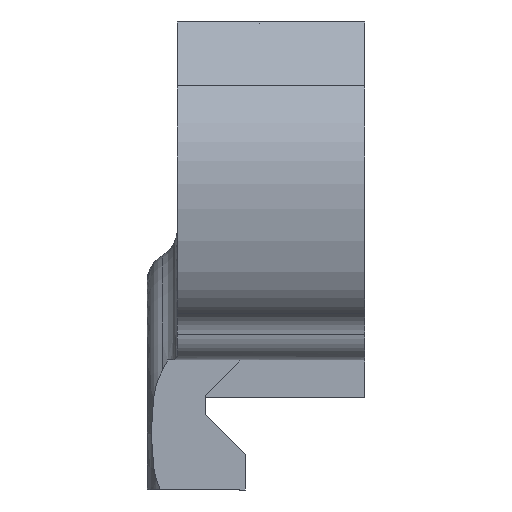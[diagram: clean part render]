
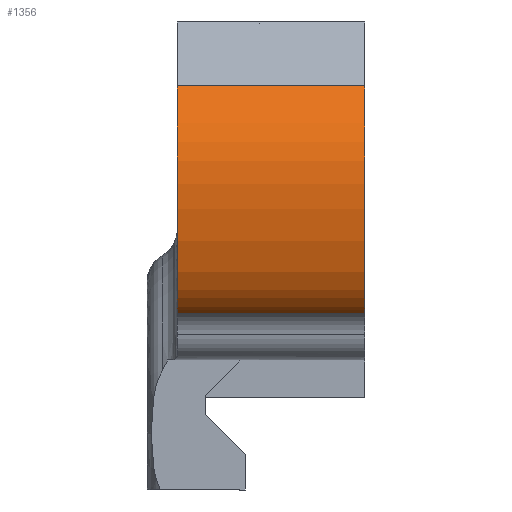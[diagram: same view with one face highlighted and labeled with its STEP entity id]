
A CAD part, left-side view. The second image highlights one B-rep face of the part: STEP entity #1356.
In plain terms, the highlighted free-form (B-spline) face has degree [3, 1] with [11, 2] control points.
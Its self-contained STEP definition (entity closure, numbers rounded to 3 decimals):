
#6 = CARTESIAN_POINT ( 'NONE',  ( 136.265, 12.445, -57.393 ) ) ;
#41 = CARTESIAN_POINT ( 'NONE',  ( 138.091, 0., -70.685 ) ) ;
#103 = ORIENTED_EDGE ( 'NONE', *, *, #2310, .F. ) ;
#126 = CARTESIAN_POINT ( 'NONE',  ( 135.369, 0., -59.25 ) ) ;
#133 = CARTESIAN_POINT ( 'NONE',  ( 135.03, 0., -61.218 ) ) ;
#169 = CARTESIAN_POINT ( 'NONE',  ( 136.694, 0., -69.453 ) ) ;
#190 = VERTEX_POINT ( 'NONE', #1692 ) ;
#204 = CARTESIAN_POINT ( 'NONE',  ( 136.694, 12.445, -69.453 ) ) ;
#216 = CARTESIAN_POINT ( 'NONE',  ( 137.57, 12.445, -70.346 ) ) ;
#257 = VECTOR ( 'NONE', #1516, 1000. ) ;
#276 = EDGE_LOOP ( 'NONE', ( #468, #103, #1373, #1128 ) ) ;
#300 = CARTESIAN_POINT ( 'NONE',  ( 135.845, 0., -67.607 ) ) ;
#318 = CARTESIAN_POINT ( 'NONE',  ( 136.694, 0., -69.453 ) ) ;
#350 = CARTESIAN_POINT ( 'NONE',  ( 135.369, 12.445, -59.25 ) ) ;
#377 = B_SPLINE_CURVE_WITH_KNOTS ( 'NONE', 3,
 ( #587, #808, #6, #1480, #1470, #426, #1880, #619, #204, #216, #1279 ),
 .UNSPECIFIED., .F., .F.,
 ( 4, 1, 1, 1, 1, 1, 1, 1, 4 ),
 ( 0.01, 0.013, 0.015, 0.017, 0.019, 0.022, 0.024, 0.026, 0.028 ),
 .UNSPECIFIED. ) ;
#379 = CARTESIAN_POINT ( 'NONE',  ( 137.087, 0., -56.161 ) ) ;
#426 = CARTESIAN_POINT ( 'NONE',  ( 135.052, 12.445, -63.377 ) ) ;
#451 = VERTEX_POINT ( 'NONE', #489 ) ;
#468 = ORIENTED_EDGE ( 'NONE', *, *, #1285, .F. ) ;
#489 = CARTESIAN_POINT ( 'NONE',  ( 138.091, 12.445, -70.685 ) ) ;
#559 = CARTESIAN_POINT ( 'NONE',  ( 135.052, 0., -63.377 ) ) ;
#587 = CARTESIAN_POINT ( 'NONE',  ( 137.5, 12.445, -55.565 ) ) ;
#589 = CARTESIAN_POINT ( 'NONE',  ( 135.03, 12.445, -61.218 ) ) ;
#619 = CARTESIAN_POINT ( 'NONE',  ( 135.845, 12.445, -67.607 ) ) ;
#760 = VECTOR ( 'NONE', #2339, 1000. ) ;
#769 = CARTESIAN_POINT ( 'NONE',  ( 137.57, 0., -70.346 ) ) ;
#796 = CARTESIAN_POINT ( 'NONE',  ( 135.03, 0., -61.218 ) ) ;
#808 = CARTESIAN_POINT ( 'NONE',  ( 137.087, 12.445, -56.161 ) ) ;
#809 = B_SPLINE_CURVE_WITH_KNOTS ( 'NONE', 3,
 ( #2452, #2628, #1388, #126, #133, #1357, #1152, #300, #318, #1399, #1380 ),
 .UNSPECIFIED., .F., .F.,
 ( 4, 1, 1, 1, 1, 1, 1, 1, 4 ),
 ( 0.01, 0.013, 0.015, 0.017, 0.019, 0.022, 0.024, 0.026, 0.028 ),
 .UNSPECIFIED. ) ;
#811 = CARTESIAN_POINT ( 'NONE',  ( 136.265, 0., -57.393 ) ) ;
#1006 = CARTESIAN_POINT ( 'NONE',  ( 137.5, 12.445, -55.565 ) ) ;
#1032 = CARTESIAN_POINT ( 'NONE',  ( 138.091, 12.445, -70.685 ) ) ;
#1128 = ORIENTED_EDGE ( 'NONE', *, *, #2103, .T. ) ;
#1152 = CARTESIAN_POINT ( 'NONE',  ( 135.339, 0., -65.513 ) ) ;
#1197 = CARTESIAN_POINT ( 'NONE',  ( 135.845, 12.445, -67.607 ) ) ;
#1223 = B_SPLINE_SURFACE_WITH_KNOTS ( 'NONE', 3, 1, ( 
 ( #1006, #2689 ),
 ( #2056, #379 ),
 ( #2724, #811 ),
 ( #350, #1617 ),
 ( #589, #796 ),
 ( #1420, #559 ),
 ( #2041, #2277 ),
 ( #1197, #2282 ),
 ( #2267, #169 ),
 ( #2240, #769 ),
 ( #1426, #2481 ) ),
 .UNSPECIFIED., .F., .F., .F.,
 ( 4, 1, 1, 1, 1, 1, 1, 1, 4 ),
 ( 2, 2 ),
 ( 0.01, 0.013, 0.015, 0.017, 0.019, 0.022, 0.024, 0.026, 0.028 ),
 ( 0., 1. ),
 .UNSPECIFIED. ) ;
#1256 = LINE ( 'NONE', #2131, #257 ) ;
#1279 = CARTESIAN_POINT ( 'NONE',  ( 138.091, 12.445, -70.685 ) ) ;
#1285 = EDGE_CURVE ( 'NONE', #190, #2304, #809, .T. ) ;
#1356 = ADVANCED_FACE ( 'NONE', ( #2363 ), #1223, .T. ) ;
#1357 = CARTESIAN_POINT ( 'NONE',  ( 135.052, 0., -63.377 ) ) ;
#1373 = ORIENTED_EDGE ( 'NONE', *, *, #2678, .T. ) ;
#1380 = CARTESIAN_POINT ( 'NONE',  ( 138.091, 0., -70.685 ) ) ;
#1388 = CARTESIAN_POINT ( 'NONE',  ( 136.265, 0., -57.393 ) ) ;
#1399 = CARTESIAN_POINT ( 'NONE',  ( 137.57, 0., -70.346 ) ) ;
#1420 = CARTESIAN_POINT ( 'NONE',  ( 135.052, 12.445, -63.377 ) ) ;
#1425 = LINE ( 'NONE', #1032, #760 ) ;
#1426 = CARTESIAN_POINT ( 'NONE',  ( 138.091, 12.445, -70.685 ) ) ;
#1470 = CARTESIAN_POINT ( 'NONE',  ( 135.03, 12.445, -61.218 ) ) ;
#1480 = CARTESIAN_POINT ( 'NONE',  ( 135.369, 12.445, -59.25 ) ) ;
#1516 = DIRECTION ( 'NONE',  ( 0., -1., 0. ) ) ;
#1617 = CARTESIAN_POINT ( 'NONE',  ( 135.369, 0., -59.25 ) ) ;
#1692 = CARTESIAN_POINT ( 'NONE',  ( 137.5, 0., -55.565 ) ) ;
#1880 = CARTESIAN_POINT ( 'NONE',  ( 135.339, 12.445, -65.513 ) ) ;
#2041 = CARTESIAN_POINT ( 'NONE',  ( 135.339, 12.445, -65.513 ) ) ;
#2056 = CARTESIAN_POINT ( 'NONE',  ( 137.087, 12.445, -56.161 ) ) ;
#2103 = EDGE_CURVE ( 'NONE', #451, #2304, #1425, .T. ) ;
#2131 = CARTESIAN_POINT ( 'NONE',  ( 137.5, 12.445, -55.565 ) ) ;
#2213 = CARTESIAN_POINT ( 'NONE',  ( 137.5, 12.445, -55.565 ) ) ;
#2240 = CARTESIAN_POINT ( 'NONE',  ( 137.57, 12.445, -70.346 ) ) ;
#2267 = CARTESIAN_POINT ( 'NONE',  ( 136.694, 12.445, -69.453 ) ) ;
#2277 = CARTESIAN_POINT ( 'NONE',  ( 135.339, 0., -65.513 ) ) ;
#2282 = CARTESIAN_POINT ( 'NONE',  ( 135.845, 0., -67.607 ) ) ;
#2304 = VERTEX_POINT ( 'NONE', #41 ) ;
#2310 = EDGE_CURVE ( 'NONE', #2434, #190, #1256, .T. ) ;
#2339 = DIRECTION ( 'NONE',  ( 0., -1., 0. ) ) ;
#2363 = FACE_OUTER_BOUND ( 'NONE', #276, .T. ) ;
#2434 = VERTEX_POINT ( 'NONE', #2213 ) ;
#2452 = CARTESIAN_POINT ( 'NONE',  ( 137.5, 0., -55.565 ) ) ;
#2481 = CARTESIAN_POINT ( 'NONE',  ( 138.091, 0., -70.685 ) ) ;
#2628 = CARTESIAN_POINT ( 'NONE',  ( 137.087, 0., -56.161 ) ) ;
#2678 = EDGE_CURVE ( 'NONE', #2434, #451, #377, .T. ) ;
#2689 = CARTESIAN_POINT ( 'NONE',  ( 137.5, 0., -55.565 ) ) ;
#2724 = CARTESIAN_POINT ( 'NONE',  ( 136.265, 12.445, -57.393 ) ) ;
